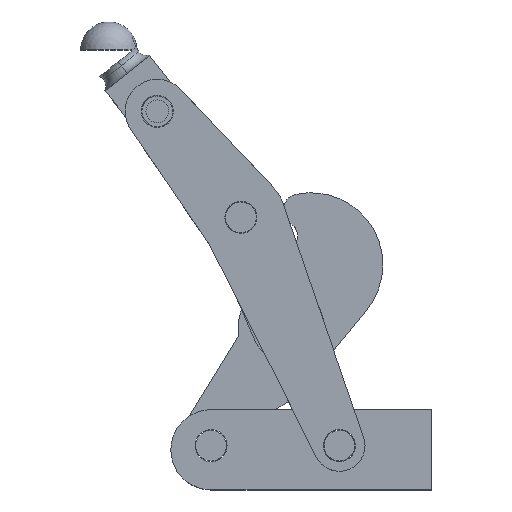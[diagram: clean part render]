
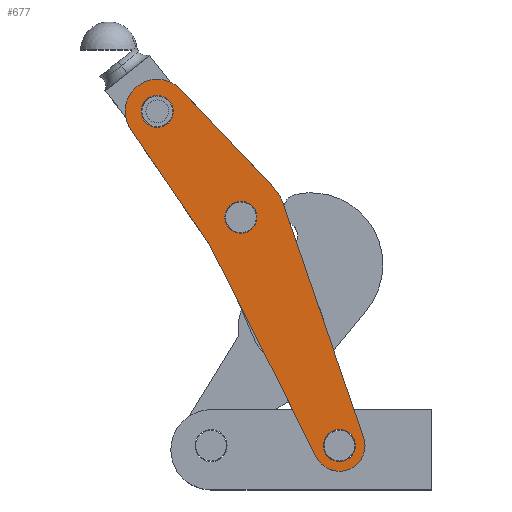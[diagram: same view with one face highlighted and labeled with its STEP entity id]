
A CAD part, top view. The second image highlights one B-rep face of the part: STEP entity #677.
In plain terms, the highlighted planar face has unit normal (0, 0, 1).
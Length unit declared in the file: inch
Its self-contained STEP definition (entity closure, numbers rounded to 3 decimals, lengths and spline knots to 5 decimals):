
#677 = ADVANCED_FACE( '', ( #881, #882, #883, #884 ), #885, .F. );
#881 = FACE_OUTER_BOUND( '', #1264, .T. );
#882 = FACE_BOUND( '', #1265, .T. );
#883 = FACE_BOUND( '', #1266, .T. );
#884 = FACE_BOUND( '', #1267, .T. );
#885 = PLANE( '', #1268 );
#1264 = EDGE_LOOP( '', ( #1820, #1821, #1822, #1823, #1824, #1825, #1826, #1827, #1828 ) );
#1265 = EDGE_LOOP( '', ( #1829, #1830, #1831 ) );
#1266 = EDGE_LOOP( '', ( #1832, #1833, #1834 ) );
#1267 = EDGE_LOOP( '', ( #1835, #1836, #1837 ) );
#1268 = AXIS2_PLACEMENT_3D( '', #1838, #1839, #1840 );
#1820 = ORIENTED_EDGE( '', *, *, #3152, .F. );
#1821 = ORIENTED_EDGE( '', *, *, #3147, .F. );
#1822 = ORIENTED_EDGE( '', *, *, #3149, .F. );
#1823 = ORIENTED_EDGE( '', *, *, #3076, .F. );
#1824 = ORIENTED_EDGE( '', *, *, #3153, .F. );
#1825 = ORIENTED_EDGE( '', *, *, #3154, .F. );
#1826 = ORIENTED_EDGE( '', *, *, #3141, .F. );
#1827 = ORIENTED_EDGE( '', *, *, #3082, .F. );
#1828 = ORIENTED_EDGE( '', *, *, #3106, .F. );
#1829 = ORIENTED_EDGE( '', *, *, #3107, .T. );
#1830 = ORIENTED_EDGE( '', *, *, #3080, .T. );
#1831 = ORIENTED_EDGE( '', *, *, #3108, .T. );
#1832 = ORIENTED_EDGE( '', *, *, #3155, .T. );
#1833 = ORIENTED_EDGE( '', *, *, #3056, .T. );
#1834 = ORIENTED_EDGE( '', *, *, #3156, .T. );
#1835 = ORIENTED_EDGE( '', *, *, #3157, .T. );
#1836 = ORIENTED_EDGE( '', *, *, #3048, .T. );
#1837 = ORIENTED_EDGE( '', *, *, #3158, .T. );
#1838 = CARTESIAN_POINT( '', ( -1.435, 0.69, 0.75 ) );
#1839 = DIRECTION( '', ( 0., 0., -1. ) );
#1840 = DIRECTION( '', ( 0., -1., 0. ) );
#3048 = EDGE_CURVE( '', #3520, #3524, #3526, .T. );
#3056 = EDGE_CURVE( '', #3536, #3540, #3542, .T. );
#3076 = EDGE_CURVE( '', #3580, #3576, #3582, .T. );
#3080 = EDGE_CURVE( '', #3584, #3588, #3590, .T. );
#3082 = EDGE_CURVE( '', #3591, #3594, #3595, .T. );
#3106 = EDGE_CURVE( '', #3631, #3591, #3633, .T. );
#3107 = EDGE_CURVE( '', #3634, #3584, #3635, .T. );
#3108 = EDGE_CURVE( '', #3588, #3634, #3636, .T. );
#3141 = EDGE_CURVE( '', #3594, #3690, #3691, .T. );
#3147 = EDGE_CURVE( '', #3697, #3699, #3700, .T. );
#3149 = EDGE_CURVE( '', #3576, #3697, #3702, .T. );
#3152 = EDGE_CURVE( '', #3699, #3631, #3706, .T. );
#3153 = EDGE_CURVE( '', #3707, #3580, #3708, .T. );
#3154 = EDGE_CURVE( '', #3690, #3707, #3709, .T. );
#3155 = EDGE_CURVE( '', #3710, #3536, #3711, .T. );
#3156 = EDGE_CURVE( '', #3540, #3710, #3712, .T. );
#3157 = EDGE_CURVE( '', #3713, #3520, #3714, .T. );
#3158 = EDGE_CURVE( '', #3524, #3713, #3715, .T. );
#3520 = VERTEX_POINT( '', #4323 );
#3524 = VERTEX_POINT( '', #4328 );
#3526 = CIRCLE( '', #4331, 0.25 );
#3536 = VERTEX_POINT( '', #4343 );
#3540 = VERTEX_POINT( '', #4348 );
#3542 = CIRCLE( '', #4351, 0.25 );
#3576 = VERTEX_POINT( '', #4393 );
#3580 = VERTEX_POINT( '', #4398 );
#3582 = CIRCLE( '', #4401, 0.4 );
#3584 = VERTEX_POINT( '', #4403 );
#3588 = VERTEX_POINT( '', #4408 );
#3590 = CIRCLE( '', #4411, 0.25 );
#3591 = VERTEX_POINT( '', #4412 );
#3594 = VERTEX_POINT( '', #4416 );
#3595 = CIRCLE( '', #4417, 0.5 );
#3631 = VERTEX_POINT( '', #4470 );
#3633 = CIRCLE( '', #4473, 0.5 );
#3634 = VERTEX_POINT( '', #4474 );
#3635 = CIRCLE( '', #4475, 0.25 );
#3636 = CIRCLE( '', #4476, 0.25 );
#3690 = VERTEX_POINT( '', #4553 );
#3691 = LINE( '', #4554, #4555 );
#3697 = VERTEX_POINT( '', #4565 );
#3699 = VERTEX_POINT( '', #4568 );
#3700 = LINE( '', #4569, #4570 );
#3702 = CIRCLE( '', #4573, 0.4 );
#3706 = LINE( '', #4577, #4578 );
#3707 = VERTEX_POINT( '', #4579 );
#3708 = LINE( '', #4580, #4581 );
#3709 = CIRCLE( '', #4582, 0.69 );
#3710 = VERTEX_POINT( '', #4583 );
#3711 = CIRCLE( '', #4584, 0.25 );
#3712 = CIRCLE( '', #4585, 0.25 );
#3713 = VERTEX_POINT( '', #4586 );
#3714 = CIRCLE( '', #4587, 0.25 );
#3715 = CIRCLE( '', #4588, 0.25 );
#4323 = CARTESIAN_POINT( '', ( -3.06823, 4.4779, 0.75 ) );
#4328 = CARTESIAN_POINT( '', ( -2.87026, 4.01876, 0.75 ) );
#4331 = AXIS2_PLACEMENT_3D( '', #5382, #5383, #5384 );
#4343 = CARTESIAN_POINT( '', ( -1.53398, 0.91957, 0.75 ) );
#4348 = CARTESIAN_POINT( '', ( -1.33602, 0.46043, 0.75 ) );
#4351 = AXIS2_PLACEMENT_3D( '', #5398, #5399, #5400 );
#4393 = CARTESIAN_POINT( '', ( -1.27663, 0.32269, 0.75 ) );
#4398 = CARTESIAN_POINT( '', ( -1.05688, 0.82048, 0.75 ) );
#4401 = AXIS2_PLACEMENT_3D( '', #5438, #5439, #5440 );
#4403 = CARTESIAN_POINT( '', ( -4.37244, 6.12997, 0.75 ) );
#4408 = CARTESIAN_POINT( '', ( -4.17447, 5.67083, 0.75 ) );
#4411 = AXIS2_PLACEMENT_3D( '', #5446, #5447, #5448 );
#4412 = CARTESIAN_POINT( '', ( -4.47142, 6.35954, 0.75 ) );
#4416 = CARTESIAN_POINT( '', ( -3.91086, 6.24468, 0.75 ) );
#4417 = AXIS2_PLACEMENT_3D( '', #5450, #5451, #5452 );
#4470 = CARTESIAN_POINT( '', ( -4.68642, 5.61852, 0.75 ) );
#4473 = AXIS2_PLACEMENT_3D( '', #5486, #5487, #5488 );
#4474 = CARTESIAN_POINT( '', ( -4.50303, 5.80142, 0.75 ) );
#4475 = AXIS2_PLACEMENT_3D( '', #5489, #5490, #5491 );
#4476 = AXIS2_PLACEMENT_3D( '', #5492, #5493, #5494 );
#4553 = CARTESIAN_POINT( '', ( -2.47084, 4.72802, 0.75 ) );
#4554 = CARTESIAN_POINT( '', ( -3.91086, 6.24468, 0.75 ) );
#4555 = VECTOR( '', #5545, 1. );
#4565 = CARTESIAN_POINT( '', ( -1.79224, 0.51006, 0.75 ) );
#4568 = CARTESIAN_POINT( '', ( -3.46137, 3.82379, 0.75 ) );
#4569 = CARTESIAN_POINT( '', ( -1.79224, 0.51006, 0.75 ) );
#4570 = VECTOR( '', #5551, 1. );
#4573 = AXIS2_PLACEMENT_3D( '', #5553, #5554, #5555 );
#4577 = CARTESIAN_POINT( '', ( -3.46137, 3.82379, 0.75 ) );
#4578 = VECTOR( '', #5562, 1. );
#4579 = CARTESIAN_POINT( '', ( -2.31896, 4.478, 0.75 ) );
#4580 = CARTESIAN_POINT( '', ( -2.31896, 4.478, 0.75 ) );
#4581 = VECTOR( '', #5563, 1. );
#4582 = AXIS2_PLACEMENT_3D( '', #5564, #5565, #5566 );
#4583 = CARTESIAN_POINT( '', ( -1.66457, 0.59102, 0.75 ) );
#4584 = AXIS2_PLACEMENT_3D( '', #5567, #5568, #5569 );
#4585 = AXIS2_PLACEMENT_3D( '', #5570, #5571, #5572 );
#4586 = CARTESIAN_POINT( '', ( -3.19881, 4.14935, 0.75 ) );
#4587 = AXIS2_PLACEMENT_3D( '', #5573, #5574, #5575 );
#4588 = AXIS2_PLACEMENT_3D( '', #5576, #5577, #5578 );
#5382 = CARTESIAN_POINT( '', ( -2.96924, 4.24833, 0.75 ) );
#5383 = DIRECTION( '', ( 0., 0., -1. ) );
#5384 = DIRECTION( '', ( -0.918, -0.396, 0. ) );
#5398 = CARTESIAN_POINT( '', ( -1.435, 0.69, 0.75 ) );
#5399 = DIRECTION( '', ( 0., 0., -1. ) );
#5400 = DIRECTION( '', ( -0.918, -0.396, 0. ) );
#5438 = CARTESIAN_POINT( '', ( -1.435, 0.69, 0.75 ) );
#5439 = DIRECTION( '', ( 0., 0., -1. ) );
#5440 = DIRECTION( '', ( 0.945, 0.326, 0. ) );
#5446 = CARTESIAN_POINT( '', ( -4.27346, 5.9004, 0.75 ) );
#5447 = DIRECTION( '', ( 0., 0., -1. ) );
#5448 = DIRECTION( '', ( -0.918, -0.396, 0. ) );
#5450 = CARTESIAN_POINT( '', ( -4.27346, 5.9004, 0.75 ) );
#5451 = DIRECTION( '', ( 0., 0., -1. ) );
#5452 = DIRECTION( '', ( -0.826, -0.564, 0. ) );
#5486 = CARTESIAN_POINT( '', ( -4.27346, 5.9004, 0.75 ) );
#5487 = DIRECTION( '', ( 0., 0., -1. ) );
#5488 = DIRECTION( '', ( -0.826, -0.564, 0. ) );
#5489 = CARTESIAN_POINT( '', ( -4.27346, 5.9004, 0.75 ) );
#5490 = DIRECTION( '', ( 0., 0., -1. ) );
#5491 = DIRECTION( '', ( -0.918, -0.396, 0. ) );
#5492 = CARTESIAN_POINT( '', ( -4.27346, 5.9004, 0.75 ) );
#5493 = DIRECTION( '', ( 0., 0., -1. ) );
#5494 = DIRECTION( '', ( -0.918, -0.396, 0. ) );
#5545 = DIRECTION( '', ( 0.689, -0.725, 0. ) );
#5551 = DIRECTION( '', ( -0.45, 0.893, 0. ) );
#5553 = CARTESIAN_POINT( '', ( -1.435, 0.69, 0.75 ) );
#5554 = DIRECTION( '', ( 0., 0., -1. ) );
#5555 = DIRECTION( '', ( 0.945, 0.326, 0. ) );
#5562 = DIRECTION( '', ( -0.564, 0.826, 0. ) );
#5563 = DIRECTION( '', ( 0.326, -0.945, 0. ) );
#5564 = CARTESIAN_POINT( '', ( -2.97122, 4.25292, 0.75 ) );
#5565 = DIRECTION( '', ( 0., 0., -1. ) );
#5566 = DIRECTION( '', ( 0.725, 0.689, 0. ) );
#5567 = CARTESIAN_POINT( '', ( -1.435, 0.69, 0.75 ) );
#5568 = DIRECTION( '', ( 0., 0., -1. ) );
#5569 = DIRECTION( '', ( -0.918, -0.396, 0. ) );
#5570 = CARTESIAN_POINT( '', ( -1.435, 0.69, 0.75 ) );
#5571 = DIRECTION( '', ( 0., 0., -1. ) );
#5572 = DIRECTION( '', ( -0.918, -0.396, 0. ) );
#5573 = CARTESIAN_POINT( '', ( -2.96924, 4.24833, 0.75 ) );
#5574 = DIRECTION( '', ( 0., 0., -1. ) );
#5575 = DIRECTION( '', ( -0.918, -0.396, 0. ) );
#5576 = CARTESIAN_POINT( '', ( -2.96924, 4.24833, 0.75 ) );
#5577 = DIRECTION( '', ( 0., 0., -1. ) );
#5578 = DIRECTION( '', ( -0.918, -0.396, 0. ) );
